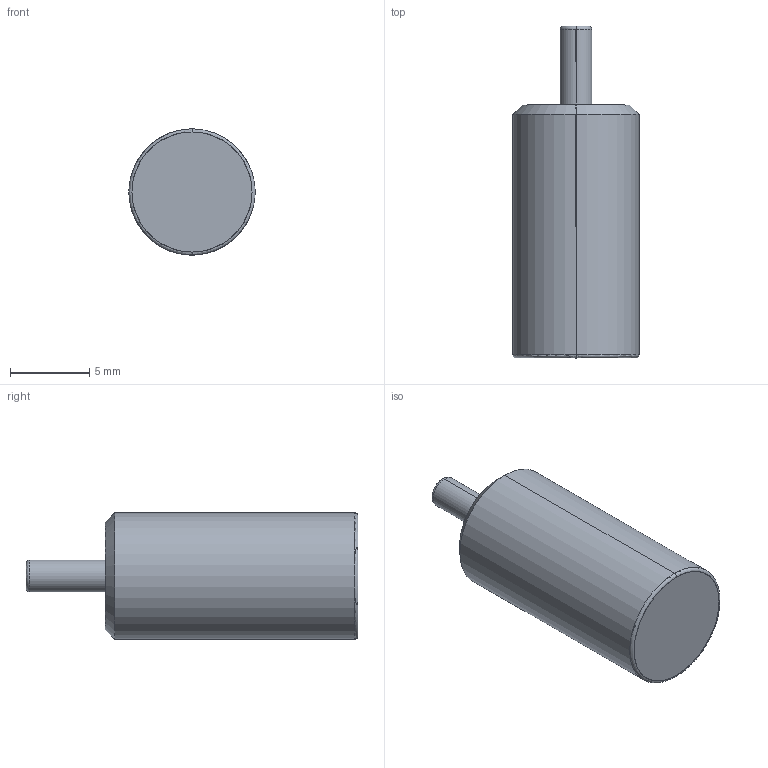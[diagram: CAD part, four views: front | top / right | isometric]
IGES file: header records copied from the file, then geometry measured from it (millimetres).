
Start section: SolidWorks IGES file using analytic representation for surfaces
Bounding box: 8 x 21 x 8 mm (x, y, z)
Surface area: 522 mm2 (no closed solid volume)
Topology: 0 solids, 0 shells, 13 faces, 152 edges, 152 vertices
Faces by surface type: bspline 7, revolution 6
